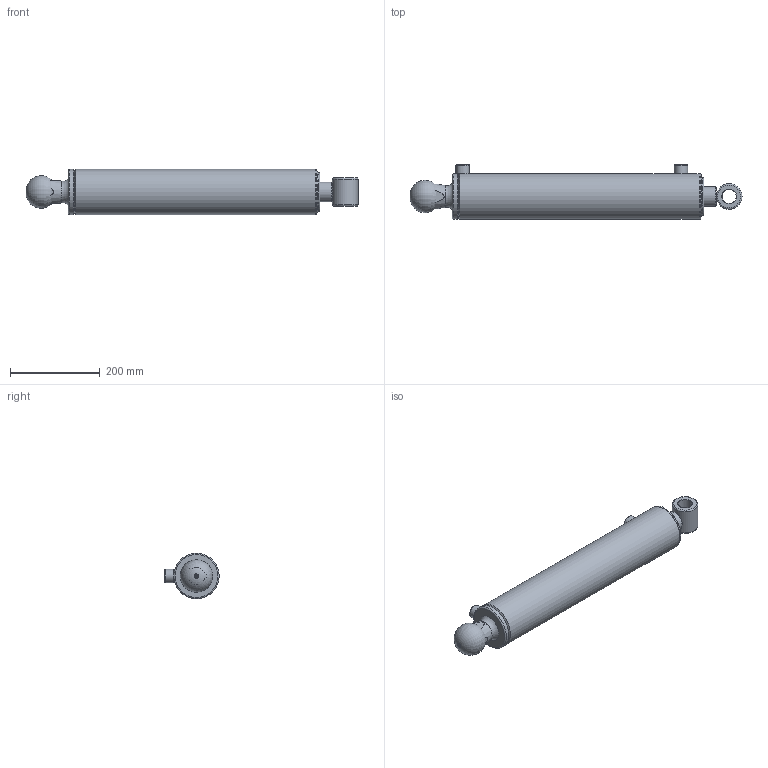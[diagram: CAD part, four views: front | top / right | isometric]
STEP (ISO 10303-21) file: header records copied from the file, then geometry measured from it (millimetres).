
FILE_DESCRIPTION(/* description */ ('Alibre Inc.'),/* implementation_level */ '2;1');
FILE_NAME(/* name */ 'export0',/* time_stamp */ '2016-08-16T10:04:32+12:00',/* author */ (''),/* organization */ (''),/* preprocessor_version */ 'ST-DEVELOPER v14',/* originating_system */ 'Alibre',/* authorisation */ '');
FILE_SCHEMA (('AUTOMOTIVE_DESIGN'));
Length unit declared in the file: centimetre
Bounding box: 741.82 x 121.6 x 101.6 mm (x, y, z)
Volume: 2893797.4 mm3; surface area: 616098.6 mm2
Topology: 12 solids, 12 shells, 148 faces, 306 edges, 191 vertices
Faces by surface type: cylinder 57, plane 48, cone 26, torus 16, bspline 1
Full cylindrical faces by diameter (mm): 7 x1, 8.3 x2, 8.4 x1, 12.7 x2, 19.1 x2, 29.35 x1, 29.972 x1, 30 x2, 31.75 x1, 31.8 x1, 31.801 x1, 44.45 x2, 44.53 x2, 50.8 x1, 53.25 x2, 53.97 x2, 57.15 x1, 73.03 x1, 81.9 x1, 83.06 x1, 84.3 x2, 85.27 x2, 85.5 x1, 87.53 x2, 88.75 x1, 88.79 x2, 88.9 x2, 92.1 x1, 101.6 x3
Entity records: 4071 total; most frequent: CARTESIAN_POINT 1180, DIRECTION 562, ORIENTED_EDGE 372, AXIS2_PLACEMENT_3D 297, FACE_BOUND 270, EDGE_LOOP 267, EDGE_CURVE 186, VERTEX_POINT 166
